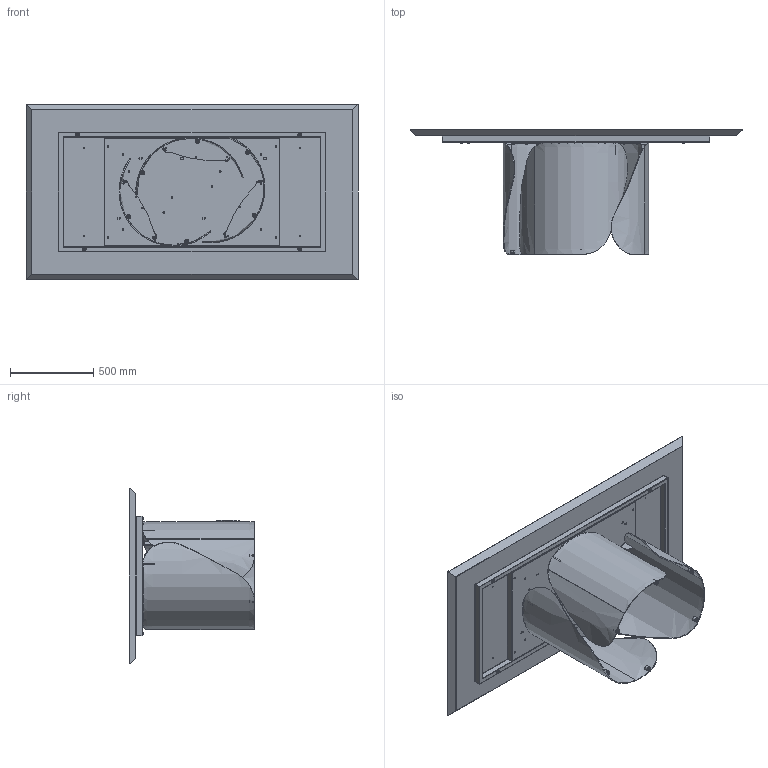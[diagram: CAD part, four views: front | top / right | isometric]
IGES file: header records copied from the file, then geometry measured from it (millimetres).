
Start section: SolidWorks IGES file using analytic representation for surfaces
Global section: file name: Y:\eforma\TECNICO\SOLIDWORKS\E-FORMA\1-TAVOLI\ONDA\02 parts\ON21W.IGS; native system: SolidWorks 2022; preprocessor: SolidWorks 2022; author: eforma.tech; date: 240806.155109; units: millimetre
Bounding box: 2000 x 754 x 1060 mm (x, y, z)
Volume: 89734963 mm3; surface area: 10639723.9 mm2
Topology: 59 solids, 59 shells, 1735 faces, 3959 edges, 2353 vertices
Faces by surface type: revolution 1049, plane 626, bspline 60
